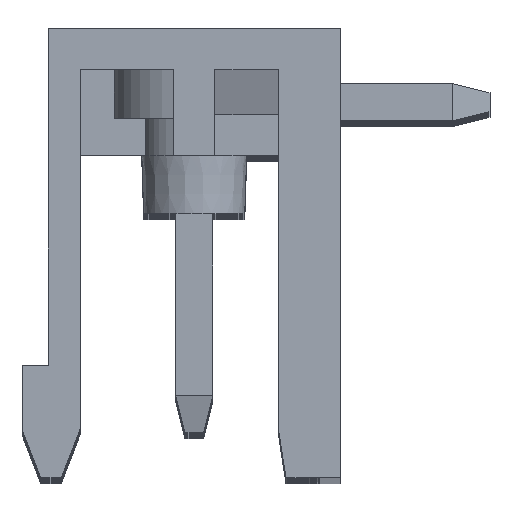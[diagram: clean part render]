
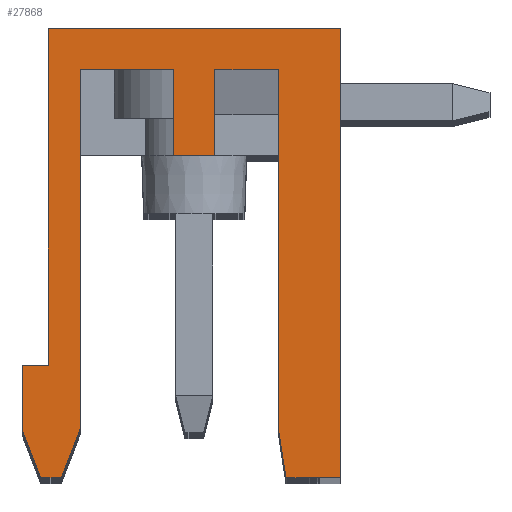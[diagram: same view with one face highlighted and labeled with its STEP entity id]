
A CAD part, top view. The second image highlights one B-rep face of the part: STEP entity #27868.
In plain terms, the highlighted planar face has unit normal (0, 0, 1).
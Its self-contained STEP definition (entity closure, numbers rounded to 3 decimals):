
#69 = EDGE_CURVE ( 'NONE', #36645, #12916, #5024, .T. ) ;
#363 = CARTESIAN_POINT ( 'NONE',  ( 3.9, 12., 91.44 ) ) ;
#710 = CARTESIAN_POINT ( 'NONE',  ( 0.55, 8.6, 91.44 ) ) ;
#1096 = EDGE_CURVE ( 'NONE', #37510, #34096, #37155, .T. ) ;
#1295 = CARTESIAN_POINT ( 'NONE',  ( -3.05, 1.3, 91.44 ) ) ;
#1744 = CARTESIAN_POINT ( 'NONE',  ( 2.45, 0., 91.44 ) ) ;
#1884 = EDGE_CURVE ( 'NONE', #41028, #32239, #9556, .T. ) ;
#1956 = CARTESIAN_POINT ( 'NONE',  ( -4.6, 3., 91.44 ) ) ;
#2205 = DIRECTION ( 'NONE',  ( -1., 0., 0. ) ) ;
#2686 = CARTESIAN_POINT ( 'NONE',  ( 3.9, 0., 91.44 ) ) ;
#3842 = DIRECTION ( 'NONE',  ( 0., -1., 0. ) ) ;
#4178 = CARTESIAN_POINT ( 'NONE',  ( -4.1, 0., 91.44 ) ) ;
#5024 = LINE ( 'NONE', #15483, #13631 ) ;
#5097 = ORIENTED_EDGE ( 'NONE', *, *, #26831, .T. ) ;
#5167 = AXIS2_PLACEMENT_3D ( 'NONE', #31574, #30912, #10239 ) ;
#5386 = ORIENTED_EDGE ( 'NONE', *, *, #21248, .T. ) ;
#5416 = EDGE_CURVE ( 'NONE', #34096, #32239, #25467, .T. ) ;
#5558 = VERTEX_POINT ( 'NONE', #13420 ) ;
#5829 = CARTESIAN_POINT ( 'NONE',  ( -0.55, 10.9, 91.44 ) ) ;
#6909 = ORIENTED_EDGE ( 'NONE', *, *, #21791, .T. ) ;
#7152 = VECTOR ( 'NONE', #22803, 1000. ) ;
#7593 = EDGE_CURVE ( 'NONE', #33705, #5558, #33318, .T. ) ;
#7983 = VECTOR ( 'NONE', #8707, 1000. ) ;
#8707 = DIRECTION ( 'NONE',  ( 1., 0., 0. ) ) ;
#8714 = VERTEX_POINT ( 'NONE', #1295 ) ;
#8850 = CARTESIAN_POINT ( 'NONE',  ( -3.55, 0., 91.44 ) ) ;
#9042 = DIRECTION ( 'NONE',  ( -0.359, -0.933, 0. ) ) ;
#9475 = LINE ( 'NONE', #12206, #32875 ) ;
#9556 = LINE ( 'NONE', #34085, #17987 ) ;
#9998 = VERTEX_POINT ( 'NONE', #8850 ) ;
#10239 = DIRECTION ( 'NONE',  ( 1., 0., 0. ) ) ;
#10275 = CARTESIAN_POINT ( 'NONE',  ( -3.9, 12., 91.44 ) ) ;
#11318 = ORIENTED_EDGE ( 'NONE', *, *, #1096, .T. ) ;
#11895 = CARTESIAN_POINT ( 'NONE',  ( 0.55, 8.6, 91.44 ) ) ;
#12206 = CARTESIAN_POINT ( 'NONE',  ( 3.9, 0., 91.44 ) ) ;
#12525 = CARTESIAN_POINT ( 'NONE',  ( -4.6, 3., 91.44 ) ) ;
#12677 = CARTESIAN_POINT ( 'NONE',  ( -0.55, 10.9, 91.44 ) ) ;
#12916 = VERTEX_POINT ( 'NONE', #17363 ) ;
#13355 = ORIENTED_EDGE ( 'NONE', *, *, #23626, .T. ) ;
#13370 = ORIENTED_EDGE ( 'NONE', *, *, #7593, .F. ) ;
#13383 = ORIENTED_EDGE ( 'NONE', *, *, #69, .T. ) ;
#13420 = CARTESIAN_POINT ( 'NONE',  ( -3.05, 10.9, 91.44 ) ) ;
#13631 = VECTOR ( 'NONE', #42738, 1000. ) ;
#14540 = ORIENTED_EDGE ( 'NONE', *, *, #37354, .T. ) ;
#15101 = LINE ( 'NONE', #363, #41116 ) ;
#15483 = CARTESIAN_POINT ( 'NONE',  ( 0.55, 10.9, 91.44 ) ) ;
#15586 = DIRECTION ( 'NONE',  ( 1., 0., 0. ) ) ;
#16020 = DIRECTION ( 'NONE',  ( 0., -1., 0. ) ) ;
#16086 = ORIENTED_EDGE ( 'NONE', *, *, #1884, .F. ) ;
#16396 = ORIENTED_EDGE ( 'NONE', *, *, #24884, .F. ) ;
#17155 = DIRECTION ( 'NONE',  ( -1., 0., 0. ) ) ;
#17363 = CARTESIAN_POINT ( 'NONE',  ( 2.25, 10.9, 91.44 ) ) ;
#17853 = VECTOR ( 'NONE', #39691, 1000. ) ;
#17987 = VECTOR ( 'NONE', #40450, 1000. ) ;
#18119 = LINE ( 'NONE', #32895, #17853 ) ;
#18320 = LINE ( 'NONE', #1744, #26025 ) ;
#19206 = EDGE_CURVE ( 'NONE', #32727, #25354, #24481, .T. ) ;
#20271 = LINE ( 'NONE', #38801, #21509 ) ;
#20649 = DIRECTION ( 'NONE',  ( -1., 0., 0. ) ) ;
#21179 = VERTEX_POINT ( 'NONE', #32432 ) ;
#21248 = EDGE_CURVE ( 'NONE', #33705, #25354, #18119, .T. ) ;
#21509 = VECTOR ( 'NONE', #3842, 1000. ) ;
#21791 = EDGE_CURVE ( 'NONE', #32727, #36645, #27753, .T. ) ;
#22338 = CARTESIAN_POINT ( 'NONE',  ( 2.25, 10.9, 91.44 ) ) ;
#22803 = DIRECTION ( 'NONE',  ( 0., -1., 0. ) ) ;
#22946 = LINE ( 'NONE', #26798, #43072 ) ;
#23082 = VERTEX_POINT ( 'NONE', #30991 ) ;
#23278 = ORIENTED_EDGE ( 'NONE', *, *, #23417, .F. ) ;
#23417 = EDGE_CURVE ( 'NONE', #5558, #8714, #20271, .T. ) ;
#23519 = LINE ( 'NONE', #43950, #37642 ) ;
#23626 = EDGE_CURVE ( 'NONE', #24817, #36272, #15101, .T. ) ;
#23950 = CARTESIAN_POINT ( 'NONE',  ( -0.55, 8.6, 91.44 ) ) ;
#24192 = CARTESIAN_POINT ( 'NONE',  ( -3.9, 3., 91.44 ) ) ;
#24473 = VECTOR ( 'NONE', #17155, 1000. ) ;
#24481 = LINE ( 'NONE', #37905, #30780 ) ;
#24817 = VERTEX_POINT ( 'NONE', #39694 ) ;
#24884 = EDGE_CURVE ( 'NONE', #8714, #9998, #40159, .T. ) ;
#25288 = CARTESIAN_POINT ( 'NONE',  ( -4.1, 0., 91.44 ) ) ;
#25354 = VERTEX_POINT ( 'NONE', #23950 ) ;
#25439 = EDGE_CURVE ( 'NONE', #36272, #37510, #23519, .T. ) ;
#25467 = LINE ( 'NONE', #12525, #31987 ) ;
#26025 = VECTOR ( 'NONE', #15586, 1000. ) ;
#26595 = CARTESIAN_POINT ( 'NONE',  ( 0.55, 10.9, 91.44 ) ) ;
#26798 = CARTESIAN_POINT ( 'NONE',  ( 2.25, 1.3, 91.44 ) ) ;
#26831 = EDGE_CURVE ( 'NONE', #41028, #9998, #29153, .T. ) ;
#27455 = ORIENTED_EDGE ( 'NONE', *, *, #19206, .F. ) ;
#27505 = FACE_OUTER_BOUND ( 'NONE', #31960, .T. ) ;
#27687 = CARTESIAN_POINT ( 'NONE',  ( -4.6, 1.3, 91.44 ) ) ;
#27753 = LINE ( 'NONE', #710, #33142 ) ;
#27868 = ADVANCED_FACE ( 'NONE', ( #27505 ), #37730, .T. ) ;
#28729 = DIRECTION ( 'NONE',  ( -1., 0., 0. ) ) ;
#29153 = LINE ( 'NONE', #25288, #7983 ) ;
#29468 = DIRECTION ( 'NONE',  ( 0., 1., 0. ) ) ;
#29546 = EDGE_CURVE ( 'NONE', #44779, #24817, #9475, .T. ) ;
#29831 = LINE ( 'NONE', #22338, #7152 ) ;
#30555 = CARTESIAN_POINT ( 'NONE',  ( -3.9, 3., 91.44 ) ) ;
#30780 = VECTOR ( 'NONE', #20649, 1000. ) ;
#30912 = DIRECTION ( 'NONE',  ( 0., 0., 1. ) ) ;
#30991 = CARTESIAN_POINT ( 'NONE',  ( 2.25, 1.3, 91.44 ) ) ;
#31225 = ORIENTED_EDGE ( 'NONE', *, *, #25439, .T. ) ;
#31574 = CARTESIAN_POINT ( 'NONE',  ( -10.2, 16.267, 91.44 ) ) ;
#31960 = EDGE_LOOP ( 'NONE', ( #40339, #13355, #31225, #11318, #41547, #16086, #5097, #16396, #23278, #13370, #5386, #27455, #6909, #13383, #39492, #42119, #14540 ) ) ;
#31987 = VECTOR ( 'NONE', #33193, 1000. ) ;
#32052 = EDGE_CURVE ( 'NONE', #23082, #21179, #22946, .T. ) ;
#32239 = VERTEX_POINT ( 'NONE', #27687 ) ;
#32432 = CARTESIAN_POINT ( 'NONE',  ( 2.45, 0., 91.44 ) ) ;
#32727 = VERTEX_POINT ( 'NONE', #11895 ) ;
#32875 = VECTOR ( 'NONE', #29468, 1000. ) ;
#32895 = CARTESIAN_POINT ( 'NONE',  ( -0.55, 10.9, 91.44 ) ) ;
#33142 = VECTOR ( 'NONE', #35672, 1000. ) ;
#33193 = DIRECTION ( 'NONE',  ( 0., -1., 0. ) ) ;
#33318 = LINE ( 'NONE', #5829, #34252 ) ;
#33705 = VERTEX_POINT ( 'NONE', #12677 ) ;
#34085 = CARTESIAN_POINT ( 'NONE',  ( -4.1, 0., 91.44 ) ) ;
#34096 = VERTEX_POINT ( 'NONE', #1956 ) ;
#34252 = VECTOR ( 'NONE', #2205, 1000. ) ;
#35672 = DIRECTION ( 'NONE',  ( 0., 1., 0. ) ) ;
#36272 = VERTEX_POINT ( 'NONE', #10275 ) ;
#36645 = VERTEX_POINT ( 'NONE', #26595 ) ;
#36868 = VECTOR ( 'NONE', #9042, 1000. ) ;
#37155 = LINE ( 'NONE', #24192, #24473 ) ;
#37354 = EDGE_CURVE ( 'NONE', #21179, #44779, #18320, .T. ) ;
#37510 = VERTEX_POINT ( 'NONE', #30555 ) ;
#37642 = VECTOR ( 'NONE', #16020, 1000. ) ;
#37730 = PLANE ( 'NONE',  #5167 ) ;
#37905 = CARTESIAN_POINT ( 'NONE',  ( 0.55, 8.6, 91.44 ) ) ;
#38801 = CARTESIAN_POINT ( 'NONE',  ( -3.05, 10.9, 91.44 ) ) ;
#38819 = EDGE_CURVE ( 'NONE', #12916, #23082, #29831, .T. ) ;
#39492 = ORIENTED_EDGE ( 'NONE', *, *, #38819, .T. ) ;
#39691 = DIRECTION ( 'NONE',  ( 0., -1., 0. ) ) ;
#39694 = CARTESIAN_POINT ( 'NONE',  ( 3.9, 12., 91.44 ) ) ;
#40159 = LINE ( 'NONE', #43110, #36868 ) ;
#40339 = ORIENTED_EDGE ( 'NONE', *, *, #29546, .T. ) ;
#40450 = DIRECTION ( 'NONE',  ( -0.359, 0.933, 0. ) ) ;
#40652 = DIRECTION ( 'NONE',  ( 0.152, -0.988, 0. ) ) ;
#41028 = VERTEX_POINT ( 'NONE', #4178 ) ;
#41116 = VECTOR ( 'NONE', #28729, 1000. ) ;
#41547 = ORIENTED_EDGE ( 'NONE', *, *, #5416, .T. ) ;
#42119 = ORIENTED_EDGE ( 'NONE', *, *, #32052, .T. ) ;
#42738 = DIRECTION ( 'NONE',  ( 1., 0., 0. ) ) ;
#43072 = VECTOR ( 'NONE', #40652, 1000. ) ;
#43110 = CARTESIAN_POINT ( 'NONE',  ( -3.05, 1.3, 91.44 ) ) ;
#43950 = CARTESIAN_POINT ( 'NONE',  ( -3.9, 12., 91.44 ) ) ;
#44779 = VERTEX_POINT ( 'NONE', #2686 ) ;
